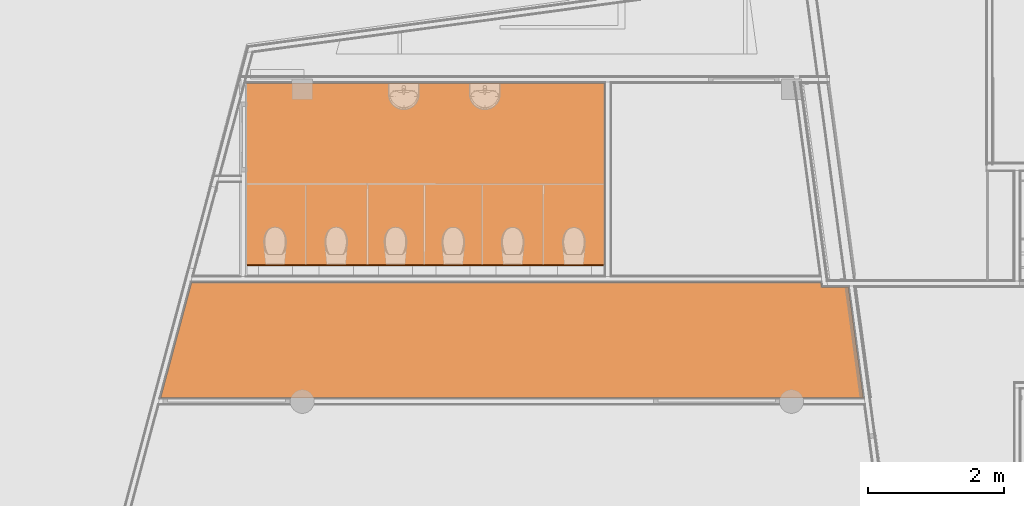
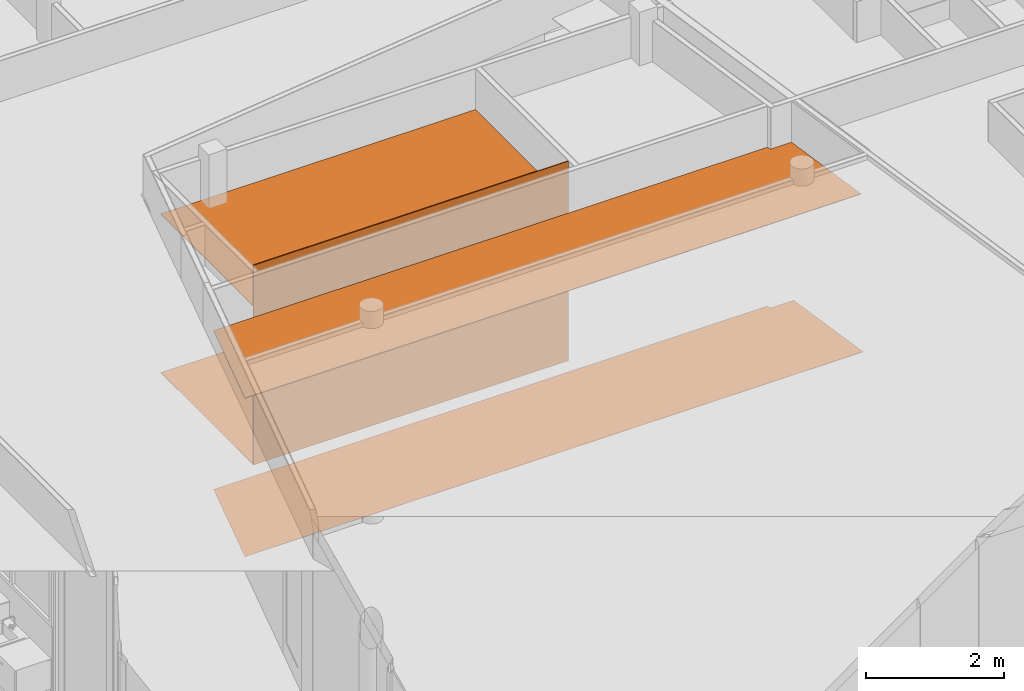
# One storey, part 132 of 167: 5 proxies.
"""IFC2X3 building model written with IfcOpenShell, lengths in millimetres."""

from ifc_helpers import new_model, entity, si_unit, converted_unit, derived_unit, money_unit, direction, frame, origin_with_axes, place, context, subcontext, project, spatial, faceted_brep, material, type_object, element, save


model = new_model("IFC2X3")

# Units and contexts
model_context = context("Model", 3, precision=0.01, world=origin_with_axes(), true_north=direction((0.0, 1.0)))
plan_context = context("Plan", 3, precision=0.01, world=origin_with_axes(), true_north=direction((0.0, 1.0)))
body_context = subcontext(model_context, "Body", "Model", "MODEL_VIEW")
ifc_project = project(units=[si_unit("LENGTHUNIT", "METRE", prefix="MILLI"), si_unit("AREAUNIT", "SQUARE_METRE"), si_unit("VOLUMEUNIT", "CUBIC_METRE"), converted_unit("PLANEANGLEUNIT", "DEGREE", entity("IfcPlaneAngleMeasure", 0.0174532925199), si_unit("PLANEANGLEUNIT", "RADIAN"), dimensions=[0, 0, 0, 0, 0, 0, 0]), si_unit("SOLIDANGLEUNIT", "STERADIAN"), money_unit("EUR"), converted_unit("TIMEUNIT", "Year", entity("IfcTimeMeasure", 31556926.0), si_unit("TIMEUNIT", "SECOND"), dimensions=[0, 0, 1, 0, 0, 0, 0]), si_unit("MASSUNIT", "GRAM", prefix="KILO"), si_unit("THERMODYNAMICTEMPERATUREUNIT", "DEGREE_CELSIUS"), si_unit("LUMINOUSINTENSITYUNIT", "LUMEN"), si_unit("ENERGYUNIT", "JOULE", prefix="MEGA"), derived_unit("THERMALCONDUCTANCEUNIT", [(si_unit("POWERUNIT", "WATT"), 1), (si_unit("LENGTHUNIT", "METRE"), -1), (si_unit("THERMODYNAMICTEMPERATUREUNIT", "KELVIN"), -1)]), derived_unit("SPECIFICHEATCAPACITYUNIT", [(si_unit("ENERGYUNIT", "JOULE"), 1), (si_unit("MASSUNIT", "GRAM", prefix="KILO"), -1), (si_unit("THERMODYNAMICTEMPERATUREUNIT", "KELVIN"), -1)]), derived_unit("MASSDENSITYUNIT", [(si_unit("MASSUNIT", "GRAM", prefix="KILO"), 1), (si_unit("VOLUMEUNIT", "CUBIC_METRE"), -1)])], contexts=[model_context, plan_context])

# Site, building, storey
site_placement = place(None, origin_with_axes())
site = spatial("IfcSite", under=ifc_project, at=site_placement, Name="Site", CompositionType="ELEMENT")
building_placement = place(site_placement, origin_with_axes())
building = spatial("IfcBuilding", under=site, at=building_placement, Name="Naam gebouw", CompositionType="ELEMENT")
storey_placement = place(building_placement, origin_with_axes())
storey = spatial("IfcBuildingStorey", under=building, at=storey_placement, Name="Begane grond", CompositionType="ELEMENT", Elevation=0.0)

# Proxies
ifc_material_1 = material(Name="ALG - BINNENAFWERKING")
building_element_proxy_type_1 = type_object("IfcBuildingElementProxyType", Name="ALG - BINNENAFWERKING 10", PredefinedType="NOTDEFINED")
proxy_1_placement = place(storey_placement, frame((18848.7746129, 38539.2116284, 2800.0), z_axis=(0.0, 0.0, 1.0), x_axis=(1.0, 0.0, 0.0)))
element("IfcBuildingElementProxy", 1, at=proxy_1_placement, inside=storey, type_object=building_element_proxy_type_1, material=ifc_material_1, Name="23__Vloer-x", context=body_context, shape_type="Brep", body=[
    faceted_brep([(0.0, 0.0, 10.0), (0.0, 0.0, 0.0), (-5268.70728928, 0.0, 0.0), (-5268.70728928, 0.0, 10.0), (0.0, -2677.51502748, 10.0), (0.0, -2677.51502748, 0.0), (-5268.70728928, -2677.51502748, 0.0), (-5268.70728928, -2677.51502748, 10.0)], [[[0, 1, 2, 3]], [[4, 5, 1, 0]], [[2, 1, 5, 6]], [[3, 2, 6, 7]], [[4, 0, 3, 7]], [[7, 6, 5, 4]]]),
])
proxy_2_placement = place(storey_placement, frame((12769.6951704, 35601.696554, 2800.0), z_axis=(0.0, 0.0, 1.0), x_axis=(1.0, 0.0, 0.0)))
element("IfcBuildingElementProxy", 2, at=proxy_2_placement, inside=storey, type_object=building_element_proxy_type_1, material=ifc_material_1, Name="23__Vloer-x", context=body_context, shape_type="Brep", body=[
    faceted_brep([(-455.513554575, -1699.99995314, 0.0), (9851.03961036, -1699.99995314, 0.0), (9851.03961036, -1699.99995314, 10.0), (-455.513554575, -1699.99995314, 10.0), (9275.12879748, -65.3434709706, 0.0), (9629.64412377, -65.3434637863, 0.0), (0.0, 0.0, 0.0), (9266.27871037, 0.0, 0.0), (9629.64412377, -65.3434637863, 10.0), (9275.12879748, -65.3434709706, 10.0), (9266.27871037, 0.0, 10.0), (0.0, 0.0, 10.0)], [[[0, 1, 2, 3]], [[4, 5, 1, 0, 6, 7]], [[5, 8, 2, 1]], [[3, 2, 8, 9, 10, 11]], [[3, 11, 6, 0]], [[9, 8, 5, 4]], [[11, 10, 7, 6]], [[10, 9, 4, 7]]]),
])
ifc_material_2 = material(Name="_TenW_43_gietvloer Bolidt dolphine grey")
building_element_proxy_type_2 = type_object("IfcBuildingElementProxyType", Name="_TenW_43_gietvloer Bolidt dolphine grey 2", PredefinedType="NOTDEFINED")
proxy_3_placement = place(storey_placement, frame((12769.6952316, 35601.6966269, 0.0), z_axis=(0.0, 0.0, 1.0), x_axis=(1.0, 0.0, 0.0)))
element("IfcBuildingElementProxy", 3, at=proxy_3_placement, inside=storey, type_object=building_element_proxy_type_2, material=ifc_material_2, Name="23__Vloer-x", context=body_context, shape_type="Brep", body=[
    faceted_brep([(-455.513617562, -1699.99998122, 2.0), (0.0, 0.0, 2.0), (0.0, 0.0, 0.0), (-455.513617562, -1699.99998122, 0.0), (9275.12865708, -65.3435343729, 2.0), (9266.2786343, 0.0, 2.0), (9888.88192864, -1700.00002606, 2.0), (9667.48652422, -65.3435343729, 2.0), (9266.2786343, 0.0, 0.0), (9888.88192864, -1700.00002606, 0.0), (9275.12865708, -65.3435343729, 0.0), (9667.48652422, -65.3435343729, 0.0)], [[[0, 1, 2, 3]], [[4, 5, 1, 0, 6, 7]], [[1, 5, 8, 2]], [[9, 3, 2, 8, 10, 11]], [[6, 0, 3, 9]], [[5, 4, 10, 8]], [[7, 6, 9, 11]], [[4, 7, 11, 10]]]),
])
ifc_material_3 = material(Name="_TenW_43_Flexx F15")
building_element_proxy_type_3 = type_object("IfcBuildingElementProxyType", Name="_TenW_43_Flexx F15 2", PredefinedType="NOTDEFINED")
proxy_4_placement = place(storey_placement, frame((13580.0673236, 35861.6966009, 0.0), z_axis=(0.0, 0.0, 1.0), x_axis=(1.0, 0.0, 0.0)))
element("IfcBuildingElementProxy", 4, at=proxy_4_placement, inside=storey, type_object=building_element_proxy_type_3, material=ifc_material_3, Name="23__Vloer-x", context=body_context, shape_type="Brep", body=[
    faceted_brep([(5268.70728928, 0.0, 0.0), (5268.70728928, 2677.51502748, 0.0), (5268.70728928, 2677.51502748, 2.0), (5268.70728928, 0.0, 2.0), (0.0, 0.0, 0.0), (0.0, 2677.51502748, 0.0), (0.0, 2677.51502748, 2.0), (0.0, 0.0, 2.0)], [[[0, 1, 2, 3]], [[4, 5, 1, 0]], [[5, 6, 2, 1]], [[3, 2, 6, 7]], [[3, 7, 4, 0]], [[7, 6, 5, 4]]]),
])
ifc_material_4 = material(Name="_TenW_22_Gipsplaat watervast")
building_element_proxy_type_4 = type_object("IfcBuildingElementProxyType", Name="_TenW_22_Gipsvezelplaat watervast 15", PredefinedType="NOTDEFINED")
proxy_5_placement = place(storey_placement, frame((18898.7746129, 35861.6966009, 0.0), z_axis=(0.0, 0.0, 1.0), x_axis=(-1.0, 0.0, 0.0)))
element("IfcBuildingElementProxy", 5, at=proxy_5_placement, inside=storey, type_object=building_element_proxy_type_4, material=ifc_material_4, Name="22__Wand-x", context=body_context, shape_type="Brep", body=[
    faceted_brep([(5318.70728928, 0.0, 0.0), (5318.70728928, 0.0, 3530.0), (50.0, 0.0, 3530.0), (50.0, 0.0, 0.0), (5318.70728928, 15.0, 0.0), (5318.70728928, 15.0, 3530.0), (50.0, 15.0, 3530.0), (50.0, 15.0, 0.0)], [[[0, 1, 2, 3]], [[4, 5, 1, 0]], [[5, 6, 2, 1]], [[3, 2, 6, 7]], [[3, 7, 4, 0]], [[7, 6, 5, 4]]]),
])

save(model, "model.ifc")
